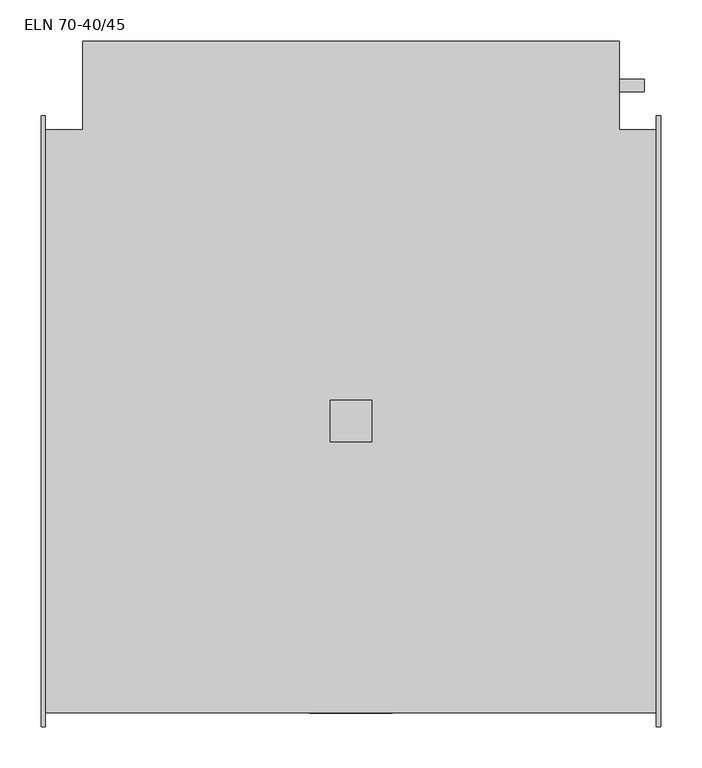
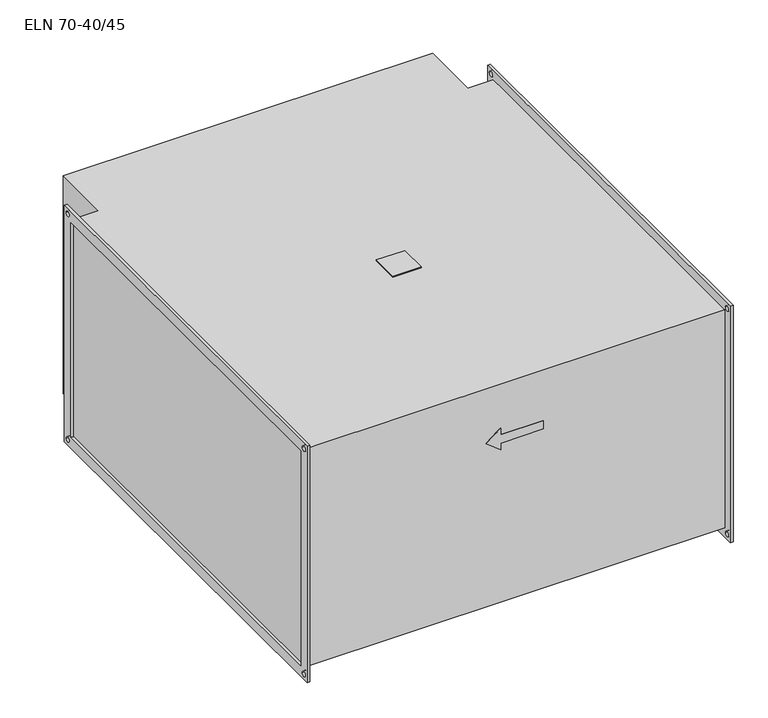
"""IFC4 building model written with IfcOpenShell, lengths in millimetres: proxy geometry, KORF_Нагреватель_Электрический_ELN : ELN 70-40/45."""

from ifc_helpers import new_model, si_unit, point, frame, frame_2d, origin, place, context, project, spatial, polyline, circle_curve, trimmed, segment, composite_curve, outline, extrude, source, transform, mapped, element, save


def eln_70_40_45_cacf244f(model_context):
    return source(origin(), model_context, "Body", "SweptSolid", [
        extrude(outline(polyline([(350.0, -25.0), (350.0, 25.0), (400.0, 25.0), (400.0, -25.0), (350.0, -25.0)])), frame((0.0, 0.0, 203.0), z_axis=(0.0, 0.0, 1.0), x_axis=(1.0, 0.0, 0.0)), (0.0, 0.0, 1.0), 2.0),
        extrude(outline(composite_curve([segment(trimmed(circle_curve(frame_2d((406.5, -101.5)), 7.5), [point((399.0, -101.5))], [point((414.0, -101.5))], False, "CARTESIAN"), True, "CONTINUOUS"), segment(trimmed(circle_curve(frame_2d((406.5, -101.5)), 7.5), [point((414.0, -101.5))], [point((399.0, -101.5))], False, "CARTESIAN"), True, "CONTINUOUS")], self_intersect=False)), frame((700.0, 0.0, 0.0), z_axis=(1.0, 0.0, 0.0), x_axis=(0.0, 1.0, 0.0)), (0.0, 0.0, 1.0), 30.0),
        extrude(outline(composite_curve([segment(trimmed(circle_curve(frame_2d((406.5, -81.5)), 7.5), [point((399.0, -81.5))], [point((414.0, -81.5))], False, "CARTESIAN"), True, "CONTINUOUS"), segment(trimmed(circle_curve(frame_2d((406.5, -81.5)), 7.5), [point((414.0, -81.5))], [point((399.0, -81.5))], False, "CARTESIAN"), True, "CONTINUOUS")], self_intersect=False)), frame((700.0, 0.0, 0.0), z_axis=(1.0, 0.0, 0.0), x_axis=(0.0, 1.0, 0.0)), (0.0, 0.0, 1.0), 30.0),
        extrude(outline(composite_curve([segment(trimmed(circle_curve(frame_2d((406.5, -121.5)), 7.5), [point((399.0, -121.5))], [point((414.0, -121.5))], False, "CARTESIAN"), True, "CONTINUOUS"), segment(trimmed(circle_curve(frame_2d((406.5, -121.5)), 7.5), [point((414.0, -121.5))], [point((399.0, -121.5))], False, "CARTESIAN"), True, "CONTINUOUS")], self_intersect=False)), frame((700.0, 0.0, 0.0), z_axis=(1.0, 0.0, 0.0), x_axis=(0.0, 1.0, 0.0)), (0.0, 0.0, 1.0), 30.0),
        extrude(outline(polyline([(121.5, 350.0), (101.5, 325.0), (81.5, 350.0), (94.0, 350.0), (94.0, 425.0), (109.0, 425.0), (109.0, 350.0), (121.5, 350.0)])), frame((0.0, -354.0, 0.0), z_axis=(0.0, 1.0, 0.0), x_axis=(0.0, 0.0, 1.0)), (0.0, 0.0, 1.0), 1.0),
        extrude(outline(polyline([(745.0, 353.0), (745.0, -353.0), (5.0, -353.0), (5.0, 353.0), (50.0, 353.0), (50.0, 460.0), (700.0, 460.0), (700.0, 353.0), (745.0, 353.0)])), frame((0.0, 0.0, -203.0), z_axis=(0.0, 0.0, 1.0), x_axis=(1.0, 0.0, 0.0)), (0.0, 0.0, 1.0), 406.0),
        extrude(outline(polyline([(-370.0, 220.0), (370.0, 220.0), (370.0, -220.0), (-370.0, -220.0), (-370.0, 220.0)]), holes=[polyline([(-350.0, 200.0), (-350.0, -200.0), (350.0, -200.0), (350.0, 200.0), (-350.0, 200.0)]), composite_curve([segment(trimmed(circle_curve(frame_2d((360.0, 210.0)), 4.5), [point((355.5, 210.0))], [point((364.5, 210.0))], True, "CARTESIAN"), True, "CONTINUOUS"), segment(trimmed(circle_curve(frame_2d((360.0, 210.0)), 4.5), [point((364.5, 210.0))], [point((355.5, 210.0))], True, "CARTESIAN"), True, "CONTINUOUS")], self_intersect=False), composite_curve([segment(trimmed(circle_curve(frame_2d((-360.0, 210.0)), 4.5), [point((-364.5, 210.0))], [point((-355.5, 210.0))], True, "CARTESIAN"), True, "CONTINUOUS"), segment(trimmed(circle_curve(frame_2d((-360.0, 210.0)), 4.5), [point((-355.5, 210.0))], [point((-364.5, 210.0))], True, "CARTESIAN"), True, "CONTINUOUS")], self_intersect=False), composite_curve([segment(trimmed(circle_curve(frame_2d((-360.0, -210.0)), 4.5), [point((-364.5, -210.0))], [point((-355.5, -210.0))], True, "CARTESIAN"), True, "CONTINUOUS"), segment(trimmed(circle_curve(frame_2d((-360.0, -210.0)), 4.5), [point((-355.5, -210.0))], [point((-364.5, -210.0))], True, "CARTESIAN"), True, "CONTINUOUS")], self_intersect=False), composite_curve([segment(trimmed(circle_curve(frame_2d((360.0, -210.0)), 4.5), [point((355.5, -210.0))], [point((364.5, -210.0))], True, "CARTESIAN"), True, "CONTINUOUS"), segment(trimmed(circle_curve(frame_2d((360.0, -210.0)), 4.5), [point((364.5, -210.0))], [point((355.5, -210.0))], True, "CARTESIAN"), True, "CONTINUOUS")], self_intersect=False)]), frame((745.0, 0.0, 0.0), z_axis=(1.0, 0.0, 0.0), x_axis=(0.0, 1.0, 0.0)), (0.0, 0.0, 1.0), 5.0),
        extrude(outline(polyline([(-370.0, 220.0), (370.0, 220.0), (370.0, -220.0), (-370.0, -220.0), (-370.0, 220.0)]), holes=[polyline([(-350.0, 200.0), (-350.0, -200.0), (350.0, -200.0), (350.0, 200.0), (-350.0, 200.0)]), composite_curve([segment(trimmed(circle_curve(frame_2d((360.0, 210.0)), 4.5), [point((355.5, 210.0))], [point((364.5, 210.0))], True, "CARTESIAN"), True, "CONTINUOUS"), segment(trimmed(circle_curve(frame_2d((360.0, 210.0)), 4.5), [point((364.5, 210.0))], [point((355.5, 210.0))], True, "CARTESIAN"), True, "CONTINUOUS")], self_intersect=False), composite_curve([segment(trimmed(circle_curve(frame_2d((-360.0, 210.0)), 4.5), [point((-364.5, 210.0))], [point((-355.5, 210.0))], True, "CARTESIAN"), True, "CONTINUOUS"), segment(trimmed(circle_curve(frame_2d((-360.0, 210.0)), 4.5), [point((-355.5, 210.0))], [point((-364.5, 210.0))], True, "CARTESIAN"), True, "CONTINUOUS")], self_intersect=False), composite_curve([segment(trimmed(circle_curve(frame_2d((-360.0, -210.0)), 4.5), [point((-364.5, -210.0))], [point((-355.5, -210.0))], True, "CARTESIAN"), True, "CONTINUOUS"), segment(trimmed(circle_curve(frame_2d((-360.0, -210.0)), 4.5), [point((-355.5, -210.0))], [point((-364.5, -210.0))], True, "CARTESIAN"), True, "CONTINUOUS")], self_intersect=False), composite_curve([segment(trimmed(circle_curve(frame_2d((360.0, -210.0)), 4.5), [point((355.5, -210.0))], [point((364.5, -210.0))], True, "CARTESIAN"), True, "CONTINUOUS"), segment(trimmed(circle_curve(frame_2d((360.0, -210.0)), 4.5), [point((364.5, -210.0))], [point((355.5, -210.0))], True, "CARTESIAN"), True, "CONTINUOUS")], self_intersect=False)]), frame((0.0, 0.0, 0.0), z_axis=(1.0, 0.0, 0.0), x_axis=(0.0, 1.0, 0.0)), (0.0, 0.0, 1.0), 5.0),
    ])


if __name__ == "__main__":
    model = new_model("IFC4")
    model_context = context("Model", 3, world=origin())
    ifc_project = project(units=[si_unit("LENGTHUNIT", "METRE", prefix="MILLI")], contexts=[model_context])
    site = spatial("IfcSite", under=ifc_project)
    building = spatial("IfcBuilding", under=site)
    placement = place(None, origin())
    eln_70_40_45_shape = eln_70_40_45_cacf244f(model_context)
    element("IfcBuildingElementProxy", 1, Name="KORF_Нагреватель_Электрический_ELN : ELN 70-40/45", ObjectType="KORF_Нагреватель_Электрический_ELN : ELN 70-40/45", at=placement, inside=building, context=model_context, shape_type="MappedRepresentation", body=[
        mapped(eln_70_40_45_shape, transform((0.0, 0.0, 0.0), x_axis=(1.0, 0.0, 0.0), y_axis=(0.0, 1.0, 0.0), z_axis=(0.0, 0.0, 1.0))),
    ])
    save(model, "model.ifc")
